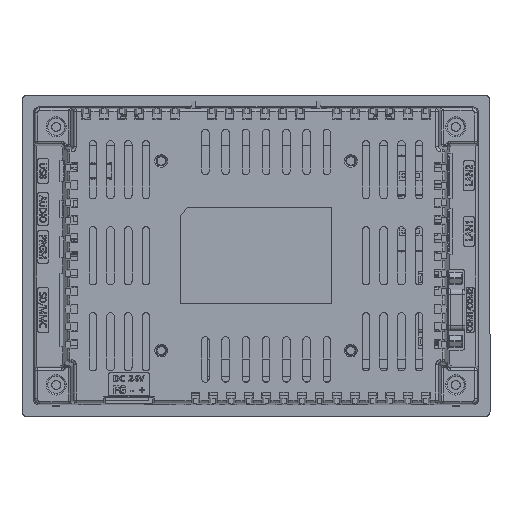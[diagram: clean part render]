
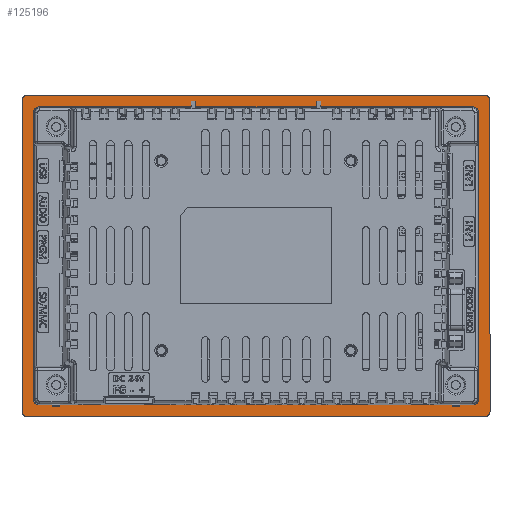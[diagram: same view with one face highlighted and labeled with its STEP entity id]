
A CAD part, top view. The second image highlights one B-rep face of the part: STEP entity #125196.
In plain terms, the highlighted planar face has unit normal (0, 0, 1) as drawn and (0, 0, -1) by its records, which use the part's own axes.
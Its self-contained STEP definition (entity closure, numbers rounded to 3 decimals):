
#233 = ORIENTED_EDGE ( 'NONE', *, *, #43299, .T. ) ;
#603 = CARTESIAN_POINT ( 'NONE',  ( 85.9, -56.9, 0. ) ) ;
#1687 = DIRECTION ( 'NONE',  ( 0., 0., 1. ) ) ;
#1862 = CARTESIAN_POINT ( 'NONE',  ( -92.5, -61.5, 0. ) ) ;
#2424 = CARTESIAN_POINT ( 'NONE',  ( -85.9, 58.9, 0. ) ) ;
#4099 = CARTESIAN_POINT ( 'NONE',  ( 85.9, 56.9, 0. ) ) ;
#4776 = LINE ( 'NONE', #46132, #186212 ) ;
#4914 = VERTEX_POINT ( 'NONE', #91556 ) ;
#6171 = AXIS2_PLACEMENT_3D ( 'NONE', #78646, #33466, #107576 ) ;
#6668 = VECTOR ( 'NONE', #24793, 1000. ) ;
#7024 = ORIENTED_EDGE ( 'NONE', *, *, #43429, .F. ) ;
#7941 = AXIS2_PLACEMENT_3D ( 'NONE', #54029, #112797, #67506 ) ;
#12477 = CARTESIAN_POINT ( 'NONE',  ( 90.5, -61.5, 0. ) ) ;
#13600 = PLANE ( 'NONE',  #52668 ) ;
#14318 = EDGE_CURVE ( 'NONE', #154277, #39473, #73476, .T. ) ;
#18065 = VERTEX_POINT ( 'NONE', #36340 ) ;
#18274 = DIRECTION ( 'NONE',  ( 0., -1., 0. ) ) ;
#18670 = CIRCLE ( 'NONE', #110821, 2. ) ;
#20182 = AXIS2_PLACEMENT_3D ( 'NONE', #603, #59196, #176718 ) ;
#20676 = LINE ( 'NONE', #2424, #65958 ) ;
#22191 = EDGE_CURVE ( 'NONE', #39473, #4914, #103125, .T. ) ;
#22281 = CIRCLE ( 'NONE', #108405, 2. ) ;
#24793 = DIRECTION ( 'NONE',  ( 0., 1., 0. ) ) ;
#27060 = DIRECTION ( 'NONE',  ( -1., 0., 0. ) ) ;
#27993 = DIRECTION ( 'NONE',  ( 1., 0., 0. ) ) ;
#28670 = EDGE_CURVE ( 'NONE', #47626, #18065, #184217, .T. ) ;
#33466 = DIRECTION ( 'NONE',  ( 0., 0., 1. ) ) ;
#36340 = CARTESIAN_POINT ( 'NONE',  ( -85.9, -58.9, 0. ) ) ;
#37016 = LINE ( 'NONE', #124627, #136565 ) ;
#37983 = EDGE_CURVE ( 'NONE', #39023, #63823, #155956, .T. ) ;
#38079 = ORIENTED_EDGE ( 'NONE', *, *, #140336, .T. ) ;
#39023 = VERTEX_POINT ( 'NONE', #181525 ) ;
#39473 = VERTEX_POINT ( 'NONE', #1862 ) ;
#39868 = CARTESIAN_POINT ( 'NONE',  ( 85.9, -58.9, 0. ) ) ;
#41471 = DIRECTION ( 'NONE',  ( 0., 0., -1. ) ) ;
#42388 = ORIENTED_EDGE ( 'NONE', *, *, #54571, .T. ) ;
#42431 = CARTESIAN_POINT ( 'NONE',  ( -90.5, -63.5, 0. ) ) ;
#43299 = EDGE_CURVE ( 'NONE', #18065, #76830, #37016, .T. ) ;
#43366 = FACE_BOUND ( 'NONE', #177066, .T. ) ;
#43429 = EDGE_CURVE ( 'NONE', #4914, #171325, #161804, .T. ) ;
#45904 = DIRECTION ( 'NONE',  ( -1., 0., 0. ) ) ;
#46132 = CARTESIAN_POINT ( 'NONE',  ( -87.9, -56.9, 0. ) ) ;
#47412 = DIRECTION ( 'NONE',  ( 0., 0., 1. ) ) ;
#47626 = VERTEX_POINT ( 'NONE', #87967 ) ;
#49314 = CARTESIAN_POINT ( 'NONE',  ( -90.5, 61.5, 0. ) ) ;
#49546 = DIRECTION ( 'NONE',  ( -1., 0., 0. ) ) ;
#52668 = AXIS2_PLACEMENT_3D ( 'NONE', #131015, #41471, #27060 ) ;
#52712 = EDGE_CURVE ( 'NONE', #153805, #183186, #151006, .T. ) ;
#53351 = VECTOR ( 'NONE', #27993, 1000. ) ;
#54029 = CARTESIAN_POINT ( 'NONE',  ( -90.5, -61.5, 0. ) ) ;
#54571 = EDGE_CURVE ( 'NONE', #155547, #109737, #20676, .T. ) ;
#57197 = ORIENTED_EDGE ( 'NONE', *, *, #69394, .T. ) ;
#59196 = DIRECTION ( 'NONE',  ( 0., 0., 1. ) ) ;
#63823 = VERTEX_POINT ( 'NONE', #162975 ) ;
#64021 = ORIENTED_EDGE ( 'NONE', *, *, #52712, .F. ) ;
#64475 = EDGE_LOOP ( 'NONE', ( #149606, #147108, #129724, #66077, #87594, #64021, #168858, #7024 ) ) ;
#64902 = DIRECTION ( 'NONE',  ( 0., 0., 1. ) ) ;
#65958 = VECTOR ( 'NONE', #137158, 1000. ) ;
#66077 = ORIENTED_EDGE ( 'NONE', *, *, #121521, .F. ) ;
#67506 = DIRECTION ( 'NONE',  ( -1., 0., 0. ) ) ;
#67851 = EDGE_CURVE ( 'NONE', #171325, #153805, #22281, .T. ) ;
#69394 = EDGE_CURVE ( 'NONE', #63823, #155547, #78497, .T. ) ;
#71257 = FACE_OUTER_BOUND ( 'NONE', #64475, .T. ) ;
#71522 = VERTEX_POINT ( 'NONE', #111294 ) ;
#73476 = LINE ( 'NONE', #132287, #74764 ) ;
#73799 = CIRCLE ( 'NONE', #6171, 2. ) ;
#74764 = VECTOR ( 'NONE', #144873, 1000. ) ;
#75099 = CARTESIAN_POINT ( 'NONE',  ( 92.5, 61.5, 0. ) ) ;
#75816 = CARTESIAN_POINT ( 'NONE',  ( -85.9, -56.9, 0. ) ) ;
#76830 = VERTEX_POINT ( 'NONE', #39868 ) ;
#78497 = CIRCLE ( 'NONE', #81559, 2. ) ;
#78646 = CARTESIAN_POINT ( 'NONE',  ( -85.9, 56.9, 0. ) ) ;
#80799 = DIRECTION ( 'NONE',  ( 0., 1., 0. ) ) ;
#81559 = AXIS2_PLACEMENT_3D ( 'NONE', #4099, #88780, #147594 ) ;
#83411 = CARTESIAN_POINT ( 'NONE',  ( -90.5, 63.5, 0. ) ) ;
#84378 = CARTESIAN_POINT ( 'NONE',  ( 92.5, -61.5, 0. ) ) ;
#87594 = ORIENTED_EDGE ( 'NONE', *, *, #115598, .F. ) ;
#87967 = CARTESIAN_POINT ( 'NONE',  ( -87.9, -56.9, 0. ) ) ;
#88780 = DIRECTION ( 'NONE',  ( 0., 0., 1. ) ) ;
#89502 = CARTESIAN_POINT ( 'NONE',  ( 92.5, -61.5, 0. ) ) ;
#91556 = CARTESIAN_POINT ( 'NONE',  ( -90.5, -63.5, 0. ) ) ;
#96350 = ORIENTED_EDGE ( 'NONE', *, *, #142112, .T. ) ;
#100215 = EDGE_CURVE ( 'NONE', #109737, #71522, #73799, .T. ) ;
#100520 = EDGE_CURVE ( 'NONE', #112745, #154277, #18670, .T. ) ;
#100783 = CIRCLE ( 'NONE', #165370, 2. ) ;
#101166 = AXIS2_PLACEMENT_3D ( 'NONE', #75816, #64902, #49546 ) ;
#102619 = CARTESIAN_POINT ( 'NONE',  ( -85.9, 58.9, 0. ) ) ;
#103125 = CIRCLE ( 'NONE', #7941, 2. ) ;
#103170 = CIRCLE ( 'NONE', #20182, 2. ) ;
#105837 = CARTESIAN_POINT ( 'NONE',  ( -90.5, 63.5, 0. ) ) ;
#107576 = DIRECTION ( 'NONE',  ( -1., 0., 0. ) ) ;
#108392 = VERTEX_POINT ( 'NONE', #184542 ) ;
#108405 = AXIS2_PLACEMENT_3D ( 'NONE', #12477, #173222, #158795 ) ;
#109737 = VERTEX_POINT ( 'NONE', #102619 ) ;
#110821 = AXIS2_PLACEMENT_3D ( 'NONE', #49314, #47412, #180306 ) ;
#111294 = CARTESIAN_POINT ( 'NONE',  ( -87.9, 56.9, 0. ) ) ;
#112745 = VERTEX_POINT ( 'NONE', #105837 ) ;
#112797 = DIRECTION ( 'NONE',  ( 0., 0., 1. ) ) ;
#114057 = VECTOR ( 'NONE', #181712, 1000. ) ;
#115598 = EDGE_CURVE ( 'NONE', #183186, #108392, #100783, .T. ) ;
#117816 = CARTESIAN_POINT ( 'NONE',  ( 90.5, -63.5, 0. ) ) ;
#121521 = EDGE_CURVE ( 'NONE', #108392, #112745, #168236, .T. ) ;
#124627 = CARTESIAN_POINT ( 'NONE',  ( -85.9, -58.9, 0. ) ) ;
#124778 = CARTESIAN_POINT ( 'NONE',  ( -92.5, 61.5, 0. ) ) ;
#125196 = ADVANCED_FACE ( 'NONE', ( #71257, #43366 ), #13600, .T. ) ;
#129724 = ORIENTED_EDGE ( 'NONE', *, *, #100520, .F. ) ;
#131015 = CARTESIAN_POINT ( 'NONE',  ( -90.5, -61.5, 0. ) ) ;
#132287 = CARTESIAN_POINT ( 'NONE',  ( -92.5, -61.5, 0. ) ) ;
#133573 = CARTESIAN_POINT ( 'NONE',  ( 90.5, 61.5, 0. ) ) ;
#136565 = VECTOR ( 'NONE', #183358, 1000. ) ;
#137158 = DIRECTION ( 'NONE',  ( -1., 0., 0. ) ) ;
#140336 = EDGE_CURVE ( 'NONE', #71522, #47626, #4776, .T. ) ;
#142112 = EDGE_CURVE ( 'NONE', #76830, #39023, #103170, .T. ) ;
#142563 = ORIENTED_EDGE ( 'NONE', *, *, #37983, .T. ) ;
#144873 = DIRECTION ( 'NONE',  ( 0., -1., 0. ) ) ;
#145614 = ORIENTED_EDGE ( 'NONE', *, *, #100215, .T. ) ;
#147108 = ORIENTED_EDGE ( 'NONE', *, *, #14318, .F. ) ;
#147594 = DIRECTION ( 'NONE',  ( -1., 0., 0. ) ) ;
#149606 = ORIENTED_EDGE ( 'NONE', *, *, #22191, .F. ) ;
#151006 = LINE ( 'NONE', #84378, #6668 ) ;
#153107 = CARTESIAN_POINT ( 'NONE',  ( 87.9, -56.9, 0. ) ) ;
#153805 = VERTEX_POINT ( 'NONE', #89502 ) ;
#154277 = VERTEX_POINT ( 'NONE', #124778 ) ;
#155547 = VERTEX_POINT ( 'NONE', #190464 ) ;
#155956 = LINE ( 'NONE', #153107, #172039 ) ;
#158795 = DIRECTION ( 'NONE',  ( 1., 0., 0. ) ) ;
#161804 = LINE ( 'NONE', #42431, #53351 ) ;
#162975 = CARTESIAN_POINT ( 'NONE',  ( 87.9, 56.9, 0. ) ) ;
#165370 = AXIS2_PLACEMENT_3D ( 'NONE', #133573, #1687, #45904 ) ;
#167316 = ORIENTED_EDGE ( 'NONE', *, *, #28670, .T. ) ;
#168236 = LINE ( 'NONE', #83411, #114057 ) ;
#168858 = ORIENTED_EDGE ( 'NONE', *, *, #67851, .F. ) ;
#171325 = VERTEX_POINT ( 'NONE', #117816 ) ;
#172039 = VECTOR ( 'NONE', #80799, 1000. ) ;
#173222 = DIRECTION ( 'NONE',  ( 0., 0., 1. ) ) ;
#176718 = DIRECTION ( 'NONE',  ( 1., 0., 0. ) ) ;
#177066 = EDGE_LOOP ( 'NONE', ( #38079, #167316, #233, #96350, #142563, #57197, #42388, #145614 ) ) ;
#180306 = DIRECTION ( 'NONE',  ( -1., 0., 0. ) ) ;
#181525 = CARTESIAN_POINT ( 'NONE',  ( 87.9, -56.9, 0. ) ) ;
#181712 = DIRECTION ( 'NONE',  ( -1., 0., 0. ) ) ;
#183186 = VERTEX_POINT ( 'NONE', #75099 ) ;
#183358 = DIRECTION ( 'NONE',  ( 1., 0., 0. ) ) ;
#184217 = CIRCLE ( 'NONE', #101166, 2. ) ;
#184542 = CARTESIAN_POINT ( 'NONE',  ( 90.5, 63.5, 0. ) ) ;
#186212 = VECTOR ( 'NONE', #18274, 1000. ) ;
#190464 = CARTESIAN_POINT ( 'NONE',  ( 85.9, 58.9, 0. ) ) ;
